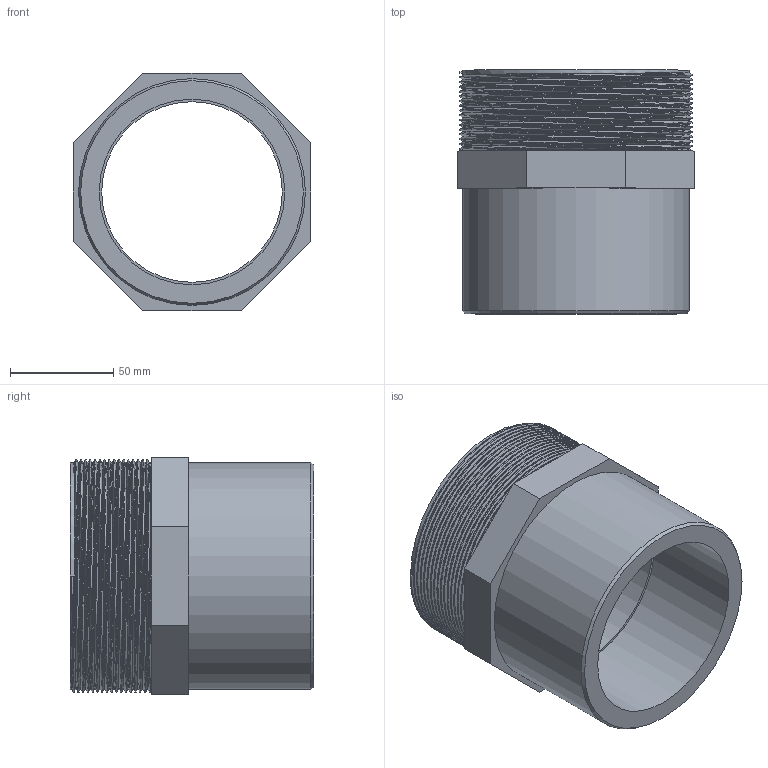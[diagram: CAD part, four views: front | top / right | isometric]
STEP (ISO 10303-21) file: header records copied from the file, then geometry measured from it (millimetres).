
FILE_DESCRIPTION(/* description */ ('PVC adattatore incollaggio-filettatura BSP maschio'),/* implementation_level */ '2;1');
FILE_NAME(/* name */ 'C:\Users\POLYPIPE\Desktop\DATASET INVENTOR\LIBRERIA EFFAST\RACCORDI 3DxWEB\RGR\3D_RGRAMG\3D_RGRAMG090L.stp',/* time_stamp */ '2018-01-19T17:37:39+01:00',/* author */ ('POLYPIPE'),/* organization */ ('Polypipe Italia s.r.l.'),/* preprocessor_version */ 'ST-DEVELOPER v16.1',/* originating_system */ 'Autodesk Inventor 2016',/* authorisation */ '');
FILE_SCHEMA (('CONFIG_CONTROL_DESIGN'));
Length unit declared in the file: millimetre
Products named in the file (1): 3D_RGRAMG
Bounding box: 115 x 118.3 x 115 mm (x, y, z)
Volume: 423562.8 mm3; surface area: 93648.5 mm2
Topology: 1 solids, 1 shells, 26 faces, 56 edges, 36 vertices
Faces by surface type: plane 15, cylinder 5, bspline 5, cone 1
Full cylindrical faces by diameter (mm): 87.6 x1, 88.6 x1, 90 x1, 110 x1, 110.072 x1
Entity records: 6897 total; most frequent: CARTESIAN_POINT 6344, ORIENTED_EDGE 102, DIRECTION 97, EDGE_CURVE 51, EDGE_LOOP 37, VERTEX_POINT 36, AXIS2_PLACEMENT_3D 35, LINE 27
